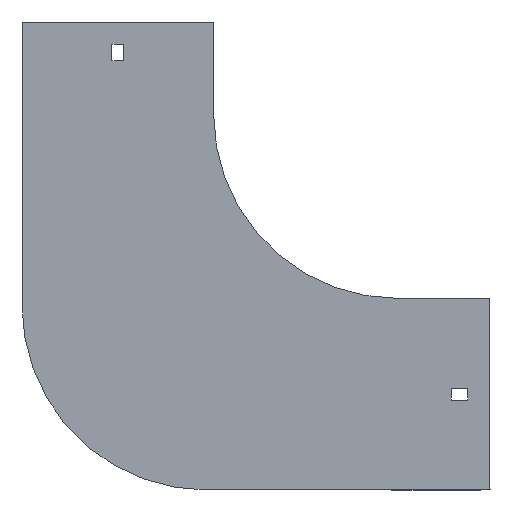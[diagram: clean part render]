
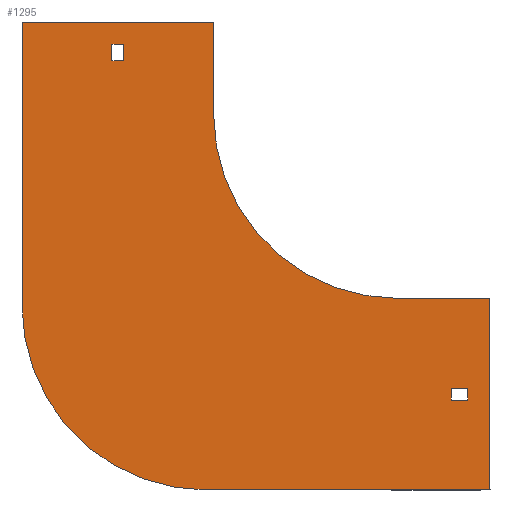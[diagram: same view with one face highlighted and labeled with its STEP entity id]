
A CAD part, front view. The second image highlights one B-rep face of the part: STEP entity #1295.
In plain terms, the highlighted planar face has unit normal (0, -1, 0).
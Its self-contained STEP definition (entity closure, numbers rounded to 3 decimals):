
#23 = EDGE_CURVE ( 'NONE', #1640, #148, #794, .T. ) ;
#33 = LINE ( 'NONE', #938, #151 ) ;
#41 = DIRECTION ( 'NONE',  ( 0., 0., 1. ) ) ;
#44 = PLANE ( 'NONE',  #178 ) ;
#49 = EDGE_CURVE ( 'NONE', #1694, #209, #588, .T. ) ;
#54 = CARTESIAN_POINT ( 'NONE',  ( -155.25, 0., 38. ) ) ;
#63 = ORIENTED_EDGE ( 'NONE', *, *, #1606, .F. ) ;
#90 = EDGE_LOOP ( 'NONE', ( #825, #98, #63, #1721, #492, #321, #405, #519 ) ) ;
#96 = CARTESIAN_POINT ( 'NONE',  ( 29., 0., -148.75 ) ) ;
#98 = ORIENTED_EDGE ( 'NONE', *, *, #1722, .F. ) ;
#148 = VERTEX_POINT ( 'NONE', #1249 ) ;
#150 = EDGE_CURVE ( 'NONE', #1553, #158, #785, .T. ) ;
#151 = VECTOR ( 'NONE', #41, 1000. ) ;
#158 = VERTEX_POINT ( 'NONE', #408 ) ;
#178 = AXIS2_PLACEMENT_3D ( 'NONE', #941, #1548, #793 ) ;
#179 = CIRCLE ( 'NONE', #929, 100. ) ;
#209 = VERTEX_POINT ( 'NONE', #985 ) ;
#225 = EDGE_CURVE ( 'NONE', #965, #1640, #695, .T. ) ;
#239 = CARTESIAN_POINT ( 'NONE',  ( -155.25, 0., 29. ) ) ;
#255 = DIRECTION ( 'NONE',  ( 0., 0., -1. ) ) ;
#268 = VERTEX_POINT ( 'NONE', #1412 ) ;
#275 = CARTESIAN_POINT ( 'NONE',  ( -100., 0., 0. ) ) ;
#321 = ORIENTED_EDGE ( 'NONE', *, *, #1119, .F. ) ;
#327 = LINE ( 'NONE', #54, #955 ) ;
#335 = FACE_OUTER_BOUND ( 'NONE', #90, .T. ) ;
#400 = DIRECTION ( 'NONE',  ( 0., 0., -1. ) ) ;
#405 = ORIENTED_EDGE ( 'NONE', *, *, #150, .F. ) ;
#408 = CARTESIAN_POINT ( 'NONE',  ( 0., 0., -100. ) ) ;
#418 = CARTESIAN_POINT ( 'NONE',  ( -155.25, 0., 38. ) ) ;
#419 = VECTOR ( 'NONE', #788, 1000. ) ;
#437 = LINE ( 'NONE', #1190, #1942 ) ;
#449 = EDGE_CURVE ( 'NONE', #268, #1578, #1815, .T. ) ;
#463 = DIRECTION ( 'NONE',  ( 1., 0., 0. ) ) ;
#492 = ORIENTED_EDGE ( 'NONE', *, *, #1021, .F. ) ;
#508 = DIRECTION ( 'NONE',  ( 0., 0., -1. ) ) ;
#519 = ORIENTED_EDGE ( 'NONE', *, *, #1435, .F. ) ;
#524 = CARTESIAN_POINT ( 'NONE',  ( 50., 0., -100. ) ) ;
#546 = LINE ( 'NONE', #524, #1882 ) ;
#548 = ORIENTED_EDGE ( 'NONE', *, *, #1214, .T. ) ;
#588 = LINE ( 'NONE', #1812, #1349 ) ;
#612 = LINE ( 'NONE', #1203, #992 ) ;
#617 = EDGE_CURVE ( 'NONE', #954, #678, #1891, .T. ) ;
#621 = DIRECTION ( 'NONE',  ( 1., 0., 0. ) ) ;
#634 = CARTESIAN_POINT ( 'NONE',  ( 50., 0., -204. ) ) ;
#635 = ORIENTED_EDGE ( 'NONE', *, *, #225, .F. ) ;
#656 = CARTESIAN_POINT ( 'NONE',  ( -155.25, 0., 29. ) ) ;
#678 = VERTEX_POINT ( 'NONE', #656 ) ;
#694 = EDGE_CURVE ( 'NONE', #678, #1067, #853, .T. ) ;
#695 = LINE ( 'NONE', #1867, #764 ) ;
#759 = CARTESIAN_POINT ( 'NONE',  ( -204., 0., 50. ) ) ;
#764 = VECTOR ( 'NONE', #508, 1000. ) ;
#777 = DIRECTION ( 'NONE',  ( 0., 1., 0. ) ) ;
#785 = CIRCLE ( 'NONE', #1901, 100. ) ;
#788 = DIRECTION ( 'NONE',  ( 1., 0., 0. ) ) ;
#793 = DIRECTION ( 'NONE',  ( 0., 0., -1. ) ) ;
#794 = LINE ( 'NONE', #1846, #1101 ) ;
#825 = ORIENTED_EDGE ( 'NONE', *, *, #449, .F. ) ;
#839 = VECTOR ( 'NONE', #1719, 1000. ) ;
#843 = DIRECTION ( 'NONE',  ( 0., 0., 1. ) ) ;
#849 = VERTEX_POINT ( 'NONE', #1510 ) ;
#853 = LINE ( 'NONE', #239, #1156 ) ;
#874 = VECTOR ( 'NONE', #1463, 1000. ) ;
#897 = EDGE_CURVE ( 'NONE', #849, #954, #1114, .T. ) ;
#929 = AXIS2_PLACEMENT_3D ( 'NONE', #1675, #777, #1211 ) ;
#938 = CARTESIAN_POINT ( 'NONE',  ( 38., 0., -155.25 ) ) ;
#941 = CARTESIAN_POINT ( 'NONE',  ( 0., 0., 0. ) ) ;
#953 = CARTESIAN_POINT ( 'NONE',  ( -148.75, 0., 29. ) ) ;
#954 = VERTEX_POINT ( 'NONE', #1310 ) ;
#955 = VECTOR ( 'NONE', #621, 1000. ) ;
#958 = DIRECTION ( 'NONE',  ( -1., 0., 0. ) ) ;
#965 = VERTEX_POINT ( 'NONE', #1904 ) ;
#975 = DIRECTION ( 'NONE',  ( 0., 0., -1. ) ) ;
#985 = CARTESIAN_POINT ( 'NONE',  ( -104., 0., -204. ) ) ;
#992 = VECTOR ( 'NONE', #1816, 1000. ) ;
#996 = LINE ( 'NONE', #1602, #1150 ) ;
#1005 = CARTESIAN_POINT ( 'NONE',  ( 0., 0., 0. ) ) ;
#1021 = EDGE_CURVE ( 'NONE', #1704, #1694, #546, .T. ) ;
#1039 = DIRECTION ( 'NONE',  ( -1., 0., 0. ) ) ;
#1046 = EDGE_CURVE ( 'NONE', #1931, #965, #1444, .T. ) ;
#1067 = VERTEX_POINT ( 'NONE', #418 ) ;
#1083 = FACE_BOUND ( 'NONE', #1245, .T. ) ;
#1091 = FACE_BOUND ( 'NONE', #1265, .T. ) ;
#1101 = VECTOR ( 'NONE', #1392, 1000. ) ;
#1114 = LINE ( 'NONE', #953, #839 ) ;
#1119 = EDGE_CURVE ( 'NONE', #158, #1704, #437, .T. ) ;
#1125 = VECTOR ( 'NONE', #958, 1000. ) ;
#1150 = VECTOR ( 'NONE', #255, 1000. ) ;
#1156 = VECTOR ( 'NONE', #843, 1000. ) ;
#1190 = CARTESIAN_POINT ( 'NONE',  ( 0., 0., -100. ) ) ;
#1203 = CARTESIAN_POINT ( 'NONE',  ( -204., 0., -104. ) ) ;
#1211 = DIRECTION ( 'NONE',  ( 0., 0., 1. ) ) ;
#1214 = EDGE_CURVE ( 'NONE', #1067, #849, #327, .T. ) ;
#1245 = EDGE_LOOP ( 'NONE', ( #1595, #548, #1680, #1683 ) ) ;
#1249 = CARTESIAN_POINT ( 'NONE',  ( 38., 0., -155.25 ) ) ;
#1259 = CARTESIAN_POINT ( 'NONE',  ( -155.25, 0., 29. ) ) ;
#1265 = EDGE_LOOP ( 'NONE', ( #1579, #1374, #635, #1628 ) ) ;
#1295 = ADVANCED_FACE ( 'NONE', ( #1083, #335, #1091 ), #44, .T. ) ;
#1310 = CARTESIAN_POINT ( 'NONE',  ( -148.75, 0., 29. ) ) ;
#1315 = CARTESIAN_POINT ( 'NONE',  ( 38., 0., -148.75 ) ) ;
#1349 = VECTOR ( 'NONE', #1039, 1000. ) ;
#1374 = ORIENTED_EDGE ( 'NONE', *, *, #23, .F. ) ;
#1392 = DIRECTION ( 'NONE',  ( 1., 0., 0. ) ) ;
#1412 = CARTESIAN_POINT ( 'NONE',  ( -204., 0., 50. ) ) ;
#1435 = EDGE_CURVE ( 'NONE', #1578, #1553, #996, .T. ) ;
#1444 = LINE ( 'NONE', #96, #874 ) ;
#1463 = DIRECTION ( 'NONE',  ( -1., 0., 0. ) ) ;
#1510 = CARTESIAN_POINT ( 'NONE',  ( -148.75, 0., 38. ) ) ;
#1546 = CARTESIAN_POINT ( 'NONE',  ( 29., 0., -155.25 ) ) ;
#1548 = DIRECTION ( 'NONE',  ( 0., -1., 0. ) ) ;
#1553 = VERTEX_POINT ( 'NONE', #275 ) ;
#1556 = CARTESIAN_POINT ( 'NONE',  ( 50., 0., -100. ) ) ;
#1578 = VERTEX_POINT ( 'NONE', #1626 ) ;
#1579 = ORIENTED_EDGE ( 'NONE', *, *, #1624, .F. ) ;
#1595 = ORIENTED_EDGE ( 'NONE', *, *, #694, .T. ) ;
#1601 = DIRECTION ( 'NONE',  ( 0., -1., 0. ) ) ;
#1602 = CARTESIAN_POINT ( 'NONE',  ( -100., 0., 50. ) ) ;
#1606 = EDGE_CURVE ( 'NONE', #209, #1854, #179, .T. ) ;
#1624 = EDGE_CURVE ( 'NONE', #148, #1931, #33, .T. ) ;
#1626 = CARTESIAN_POINT ( 'NONE',  ( -100., 0., 50. ) ) ;
#1628 = ORIENTED_EDGE ( 'NONE', *, *, #1046, .F. ) ;
#1640 = VERTEX_POINT ( 'NONE', #1546 ) ;
#1675 = CARTESIAN_POINT ( 'NONE',  ( -104., 0., -104. ) ) ;
#1680 = ORIENTED_EDGE ( 'NONE', *, *, #897, .T. ) ;
#1683 = ORIENTED_EDGE ( 'NONE', *, *, #617, .T. ) ;
#1694 = VERTEX_POINT ( 'NONE', #634 ) ;
#1704 = VERTEX_POINT ( 'NONE', #1556 ) ;
#1719 = DIRECTION ( 'NONE',  ( 0., 0., -1. ) ) ;
#1721 = ORIENTED_EDGE ( 'NONE', *, *, #49, .F. ) ;
#1722 = EDGE_CURVE ( 'NONE', #1854, #268, #612, .T. ) ;
#1797 = CARTESIAN_POINT ( 'NONE',  ( -204., 0., -104. ) ) ;
#1812 = CARTESIAN_POINT ( 'NONE',  ( 50., 0., -204. ) ) ;
#1815 = LINE ( 'NONE', #759, #419 ) ;
#1816 = DIRECTION ( 'NONE',  ( 0., 0., 1. ) ) ;
#1846 = CARTESIAN_POINT ( 'NONE',  ( 29., 0., -155.25 ) ) ;
#1854 = VERTEX_POINT ( 'NONE', #1797 ) ;
#1867 = CARTESIAN_POINT ( 'NONE',  ( 29., 0., -155.25 ) ) ;
#1882 = VECTOR ( 'NONE', #400, 1000. ) ;
#1891 = LINE ( 'NONE', #1259, #1125 ) ;
#1901 = AXIS2_PLACEMENT_3D ( 'NONE', #1005, #1601, #975 ) ;
#1904 = CARTESIAN_POINT ( 'NONE',  ( 29., 0., -148.75 ) ) ;
#1931 = VERTEX_POINT ( 'NONE', #1315 ) ;
#1942 = VECTOR ( 'NONE', #463, 1000. ) ;
